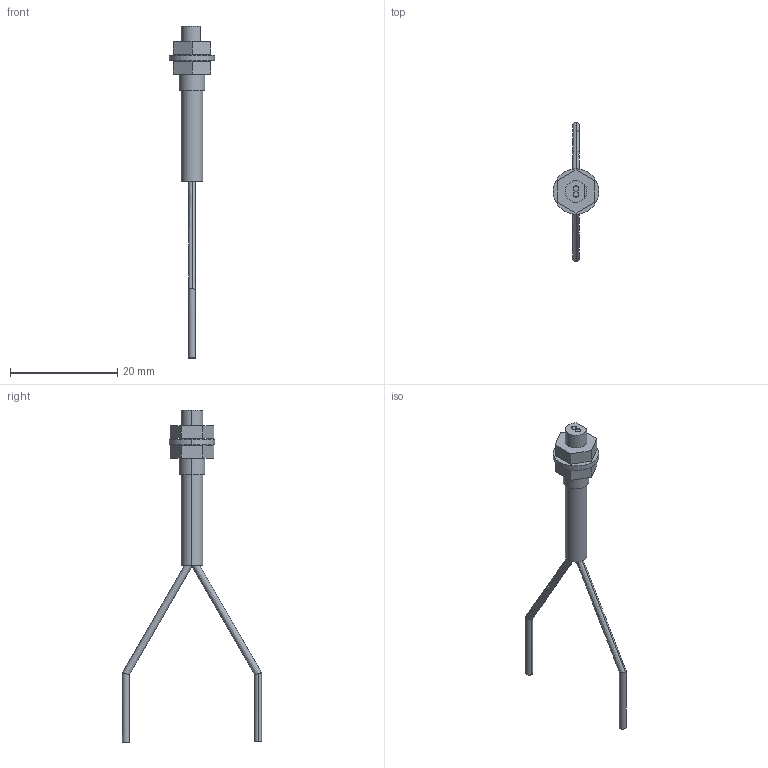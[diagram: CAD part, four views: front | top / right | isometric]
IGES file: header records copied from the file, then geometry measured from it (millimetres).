
Start section: SolidWorks IGES FILE using analytic representation for surfaces
Global section: file name: C:\Documents and Settings\yk0651\デスクトップ\3D_catalog_050904\0_IGES\FD-T80.IGS; native system: SolidWorks 2004 by SolidWorks Corporation; preprocessor: Version 5.3; author: yk0651; date: 050904.192217; units: millimetre
Bounding box: 8.5 x 25.97 x 62 mm (x, y, z)
Volume: 736.3 mm3; surface area: 1330 mm2
Topology: 7 solids, 7 shells, 60 faces, 127 edges, 84 vertices
Faces by surface type: revolution 30, plane 30
